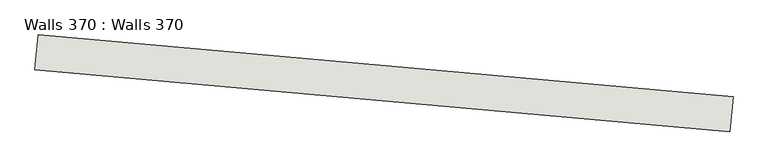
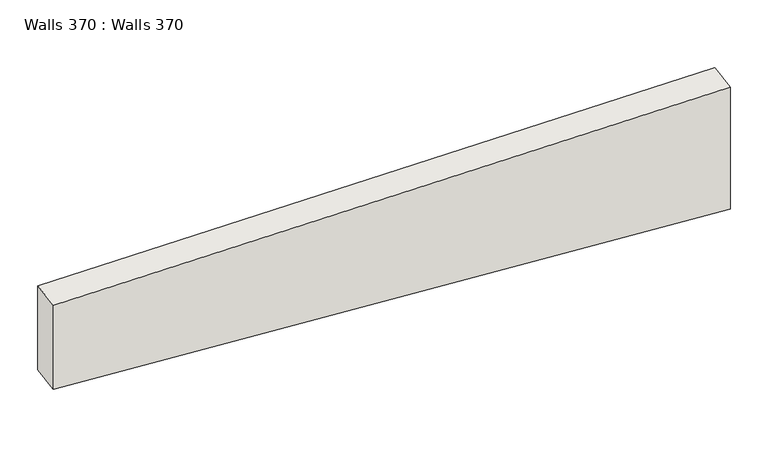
"""IFC4 building model written with IfcOpenShell, lengths in millimetres: wall geometry, Walls 370 : Walls 370."""

from ifc_helpers import new_model, si_unit, frame, origin, place, context, project, spatial, polyline, outline, extrude, source, transform, mapped, element, save


def walls_370_walls_370_54c41b1c(model_context):
    return source(origin(), model_context, "Body", "SweptSolid", [
        extrude(outline(polyline([(-800.0, 0.0), (800.0, 0.0), (300.0, -7999.9999999), (-800.0, -7999.9999999), (-800.0, 0.0)])), frame((-682637.5700415, -418265.1594238, 636160.0), z_axis=(0.08873732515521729, 0.9960550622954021, 0.0), x_axis=(0.0, 0.0, 1.0)), (0.0, 0.0, 1.0), 400.0),
    ])


if __name__ == "__main__":
    model = new_model("IFC4")
    model_context = context("Model", 3, world=origin())
    ifc_project = project(units=[si_unit("LENGTHUNIT", "METRE", prefix="MILLI")], contexts=[model_context])
    site = spatial("IfcSite", under=ifc_project)
    building = spatial("IfcBuilding", under=site)
    placement = place(None, origin())
    walls_370_walls_370_shape = walls_370_walls_370_54c41b1c(model_context)
    element("IfcWall", 1, ObjectType="Walls 370 : Walls 370", at=placement, inside=building, context=model_context, shape_type="MappedRepresentation", body=[
        mapped(walls_370_walls_370_shape, transform((0.0, 0.0, 0.0), x_axis=(1.0, 0.0, 0.0), y_axis=(0.0, 1.0, 0.0), z_axis=(0.0, 0.0, 1.0))),
    ])
    save(model, "model.ifc")
